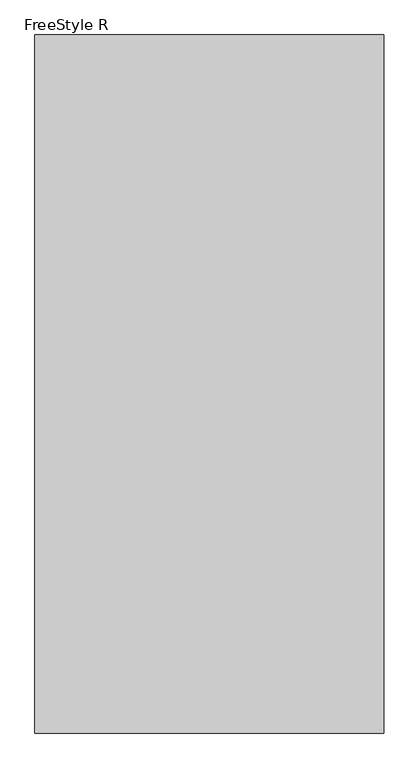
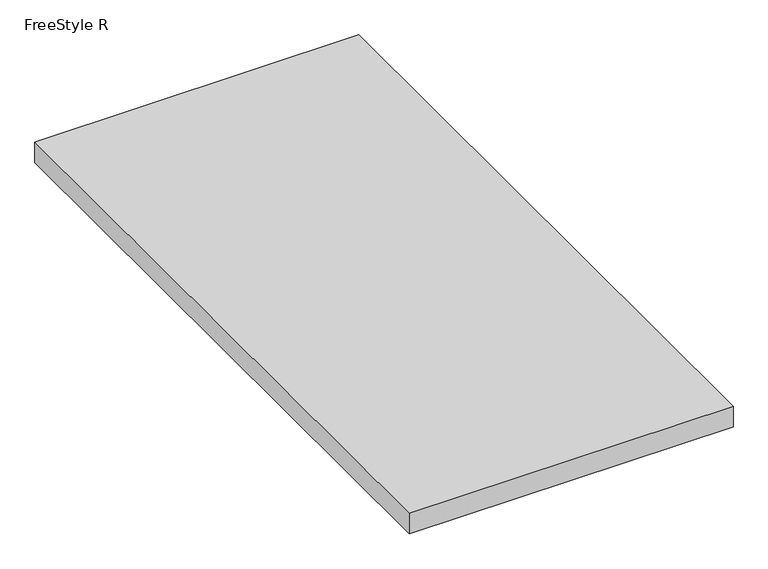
"""IFC4 building model written with IfcOpenShell, lengths in millimetres: proxy geometry, OWA FreeStyle wall absorber : FreeStyle R."""

from ifc_helpers import new_model, si_unit, origin, origin_with_axes, place, context, project, spatial, polyline, outline, extrude, source, transform, mapped, element, save


def freestyle_r_68592092(model_context):
    return source(origin(), model_context, "Body", "SweptSolid", [
        extrude(outline(polyline([(-733.5, 600.0), (-133.5, 600.0), (-133.5, -600.0), (-733.5, -600.0), (-733.5, 600.0)])), origin_with_axes(), (0.0, 0.0, 1.0), 40.0),
    ])


if __name__ == "__main__":
    model = new_model("IFC4")
    model_context = context("Model", 3, world=origin())
    ifc_project = project(units=[si_unit("LENGTHUNIT", "METRE", prefix="MILLI")], contexts=[model_context])
    site = spatial("IfcSite", under=ifc_project)
    building = spatial("IfcBuilding", under=site)
    placement = place(None, origin())
    freestyle_r_shape = freestyle_r_68592092(model_context)
    element("IfcBuildingElementProxy", 1, Name="OWA FreeStyle wall absorber : FreeStyle R", ObjectType="OWA FreeStyle wall absorber : FreeStyle R", at=placement, inside=building, context=model_context, shape_type="MappedRepresentation", body=[
        mapped(freestyle_r_shape, transform((0.0, 0.0, 0.0), x_axis=(1.0, 0.0, 0.0), y_axis=(0.0, 1.0, 0.0), z_axis=(0.0, 0.0, 1.0))),
    ])
    save(model, "model.ifc")
